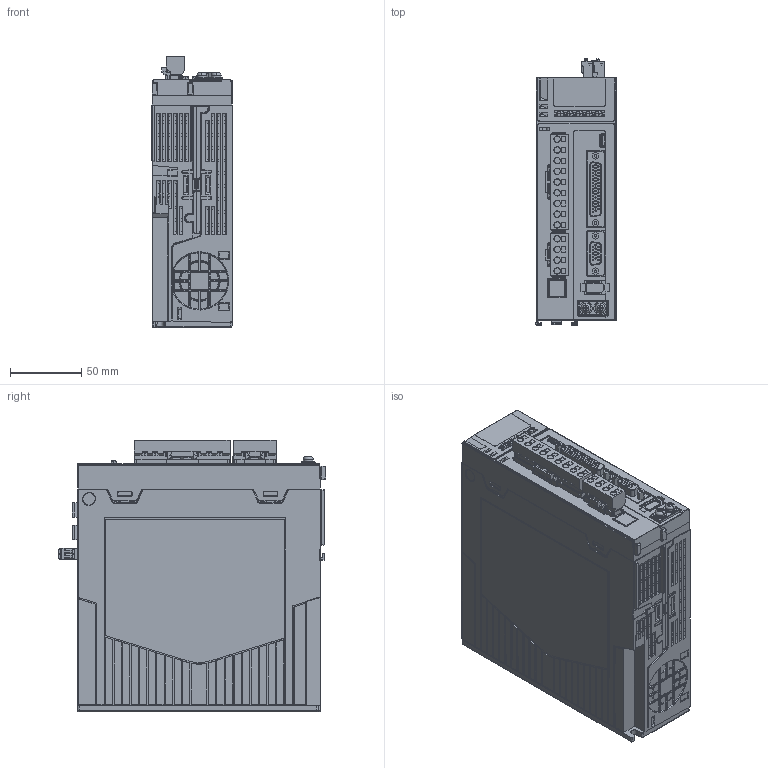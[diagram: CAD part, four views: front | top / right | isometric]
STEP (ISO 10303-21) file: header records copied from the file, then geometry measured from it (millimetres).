
FILE_DESCRIPTION((''),'2;1');
FILE_NAME('SV670P-SIZE-B-FS_ASM','2024-02-03T',('10009991'),(''),'CREO PARAMETRIC BY PTC INC, 2015290','CREO PARAMETRIC BY PTC INC, 2015290','');
FILE_SCHEMA(('AUTOMOTIVE_DESIGN { 1 0 10303 214 1 1 1 1 }'));
Products named in the file (7): MSBR-5_1_1; MSBR-4_1_1; MSBR-3_1_1; MSBR-2_1_1; MSBR-1_1_1; PXC_1707854_01_FMCD-4PIN_3_1; SV670P-SIZE-B-FS_ASM
Assembly tree (6 placements, depth 2):
  SV670P-SIZE-B-FS_ASM
    MSBR-5_1_1
    MSBR-4_1_1
    MSBR-3_1_1
    MSBR-2_1_1
    MSBR-1_1_1
    PXC_1707854_01_FMCD-4PIN_3_1
Bounding box: 56.09 x 187.45 x 190.2 mm (x, y, z)
Volume: 1651448.1 mm3; surface area: 124940.8 mm2
Topology: 6 solids, 9 shells, 5141 faces, 13505 edges, 8566 vertices
Faces by surface type: plane 3090, cylinder 1136, bspline 304, cone 245, extrusion 177, torus 130, sphere 59
Entity records: 233933 total; most frequent: CARTESIAN_POINT 70699, ORIENTED_EDGE 26872, DIRECTION 23257, EDGE_CURVE 13436, VECTOR 9581, LINE 9404, VERTEX_POINT 8566, AXIS2_PLACEMENT_3D 6838
